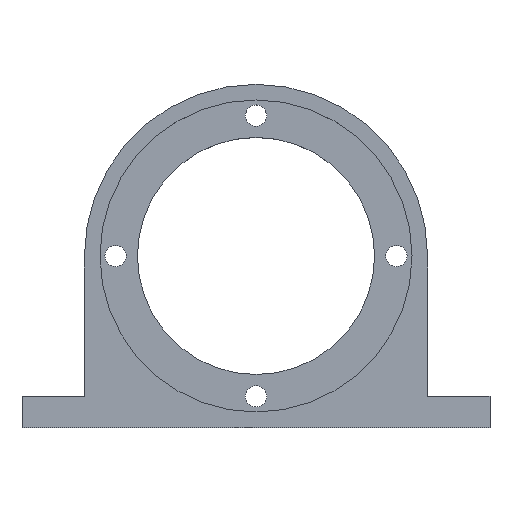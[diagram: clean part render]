
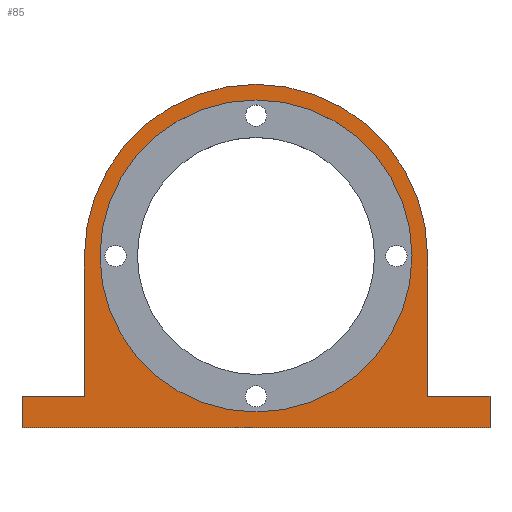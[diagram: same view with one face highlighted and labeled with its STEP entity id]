
A CAD part, top view. The second image highlights one B-rep face of the part: STEP entity #85.
In plain terms, the highlighted planar face has unit normal (0, 0, 1).
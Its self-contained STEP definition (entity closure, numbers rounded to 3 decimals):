
#44=PLANE('',#618);
#64=FACE_BOUND('',#163,.T.);
#65=FACE_BOUND('',#164,.T.);
#85=ADVANCED_FACE('NONE',(#64,#65),#44,.F.);
#163=EDGE_LOOP('',(#291,#292,#293,#294,#295,#296,#297,#298,#299));
#164=EDGE_LOOP('',(#300,#301));
#188=CIRCLE('',#580,27.5);
#190=CIRCLE('',#583,27.5);
#209=CIRCLE('',#609,25.);
#215=CIRCLE('',#617,25.);
#291=ORIENTED_EDGE('',*,*,#477,.T.);
#292=ORIENTED_EDGE('',*,*,#428,.T.);
#293=ORIENTED_EDGE('',*,*,#433,.T.);
#294=ORIENTED_EDGE('',*,*,#478,.T.);
#295=ORIENTED_EDGE('',*,*,#479,.T.);
#296=ORIENTED_EDGE('',*,*,#480,.T.);
#297=ORIENTED_EDGE('',*,*,#481,.T.);
#298=ORIENTED_EDGE('',*,*,#482,.T.);
#299=ORIENTED_EDGE('',*,*,#483,.T.);
#300=ORIENTED_EDGE('',*,*,#464,.F.);
#301=ORIENTED_EDGE('',*,*,#484,.F.);
#378=VERTEX_POINT('',#827);
#379=VERTEX_POINT('',#828);
#382=VERTEX_POINT('',#836);
#406=VERTEX_POINT('',#897);
#407=VERTEX_POINT('',#899);
#414=VERTEX_POINT('',#922);
#415=VERTEX_POINT('',#924);
#416=VERTEX_POINT('',#926);
#417=VERTEX_POINT('',#928);
#418=VERTEX_POINT('',#930);
#419=VERTEX_POINT('',#932);
#428=EDGE_CURVE('NONE',#378,#379,#188,.T.);
#433=EDGE_CURVE('NONE',#379,#382,#190,.T.);
#464=EDGE_CURVE('NONE',#407,#406,#209,.T.);
#477=EDGE_CURVE('NONE',#414,#378,#521,.T.);
#478=EDGE_CURVE('NONE',#382,#415,#522,.T.);
#479=EDGE_CURVE('NONE',#415,#416,#523,.T.);
#480=EDGE_CURVE('NONE',#416,#417,#524,.T.);
#481=EDGE_CURVE('NONE',#417,#418,#525,.T.);
#482=EDGE_CURVE('NONE',#418,#419,#526,.T.);
#483=EDGE_CURVE('NONE',#419,#414,#527,.T.);
#484=EDGE_CURVE('NONE',#406,#407,#215,.T.);
#521=LINE('',#921,#560);
#522=LINE('',#923,#561);
#523=LINE('',#925,#562);
#524=LINE('',#927,#563);
#525=LINE('',#929,#564);
#526=LINE('',#931,#565);
#527=LINE('',#933,#566);
#560=VECTOR('',#752,1.);
#561=VECTOR('',#753,1.);
#562=VECTOR('',#754,1.);
#563=VECTOR('',#755,1.);
#564=VECTOR('',#756,1.);
#565=VECTOR('',#757,1.);
#566=VECTOR('',#758,1.);
#580=AXIS2_PLACEMENT_3D('',#826,#656,#657);
#583=AXIS2_PLACEMENT_3D('',#838,#665,#666);
#609=AXIS2_PLACEMENT_3D('',#900,#729,#730);
#617=AXIS2_PLACEMENT_3D('',#934,#759,#760);
#618=AXIS2_PLACEMENT_3D('',#935,#761,#762);
#656=DIRECTION('',(0.,0.,1.));
#657=DIRECTION('',(-1.,0.,0.));
#665=DIRECTION('',(0.,0.,1.));
#666=DIRECTION('',(-1.,0.,0.));
#729=DIRECTION('',(0.,0.,1.));
#730=DIRECTION('',(1.,0.,0.));
#752=DIRECTION('',(0.,1.,0.));
#753=DIRECTION('',(0.,-1.,0.));
#754=DIRECTION('',(-1.,0.,0.));
#755=DIRECTION('',(0.,-1.,0.));
#756=DIRECTION('',(1.,0.,0.));
#757=DIRECTION('',(0.,1.,0.));
#758=DIRECTION('',(-1.,0.,0.));
#759=DIRECTION('',(0.,0.,1.));
#760=DIRECTION('',(1.,0.,0.));
#761=DIRECTION('',(0.,0.,-1.));
#762=DIRECTION('',(-1.,0.,0.));
#826=CARTESIAN_POINT('',(0.,27.5,6.));
#827=CARTESIAN_POINT('',(27.5,27.5,6.));
#828=CARTESIAN_POINT('',(0.,55.,6.));
#836=CARTESIAN_POINT('',(-27.5,27.5,6.));
#838=CARTESIAN_POINT('',(0.,27.5,6.));
#897=CARTESIAN_POINT('',(-25.,27.5,6.));
#899=CARTESIAN_POINT('',(25.,27.5,6.));
#900=CARTESIAN_POINT('',(0.,27.5,6.));
#921=CARTESIAN_POINT('',(27.5,55.,6.));
#922=CARTESIAN_POINT('',(27.5,5.,6.));
#923=CARTESIAN_POINT('',(-27.5,5.,6.));
#924=CARTESIAN_POINT('',(-27.5,5.,6.));
#925=CARTESIAN_POINT('',(-37.5,5.,6.));
#926=CARTESIAN_POINT('',(-37.5,5.,6.));
#927=CARTESIAN_POINT('',(-37.5,0.,6.));
#928=CARTESIAN_POINT('',(-37.5,0.,6.));
#929=CARTESIAN_POINT('',(37.5,0.,6.));
#930=CARTESIAN_POINT('',(37.5,0.,6.));
#931=CARTESIAN_POINT('',(37.5,5.,6.));
#932=CARTESIAN_POINT('',(37.5,5.,6.));
#933=CARTESIAN_POINT('',(27.5,5.,6.));
#934=CARTESIAN_POINT('',(0.,27.5,6.));
#935=CARTESIAN_POINT('',(0.,0.,6.));
